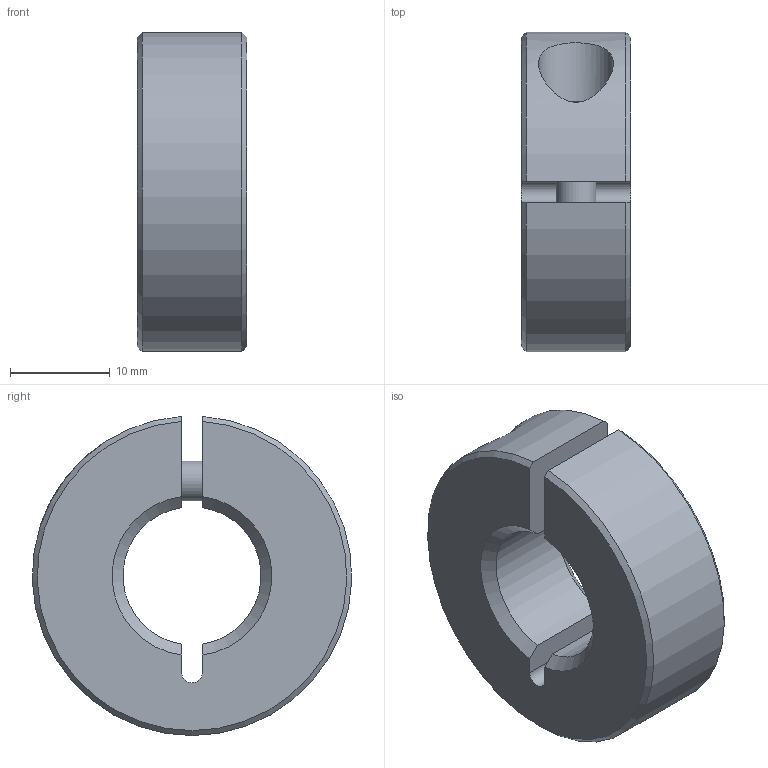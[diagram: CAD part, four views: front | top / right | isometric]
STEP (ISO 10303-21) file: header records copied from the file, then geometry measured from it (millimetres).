
FILE_DESCRIPTION( ( 'STEP AP203' ), '1' );
FILE_NAME( 'C:/Temp/Ganter_Step_05_03_2020/data/3_2/gn706_3/gn706_3_st/Threaded set collar GN 706.3-32-M16-ST.stp', '2020-03-13T05:33:34', ( 'License CC BY-ND 4.0' ), ( 'CADENAS' ), ' ', 'PARTsolutions', ' ' );
FILE_SCHEMA( ( 'CONFIG_CONTROL_DESIGN' ) );
Length unit declared in the file: millimetre
Products named in the file (1): _Threaded set collar GN 706.3-32-M16-ST
Bounding box: 11 x 31.98 x 31.97 mm (x, y, z)
Volume: 6638 mm3; surface area: 3341.6 mm2
Topology: 1 solids, 1 shells, 31 faces, 74 edges, 49 vertices
Faces by surface type: plane 16, cylinder 8, cone 6, torus 1
Full cylindrical faces by diameter (mm): 4 x1, 4.3 x1, 7 x1, 7.5 x1
Entity records: 1006 total; most frequent: CARTESIAN_POINT 257, DIRECTION 142, ORIENTED_EDGE 138, EDGE_CURVE 69, AXIS2_PLACEMENT_3D 54, VERTEX_POINT 49, EDGE_LOOP 42, FACE_OUTER_BOUND 36
